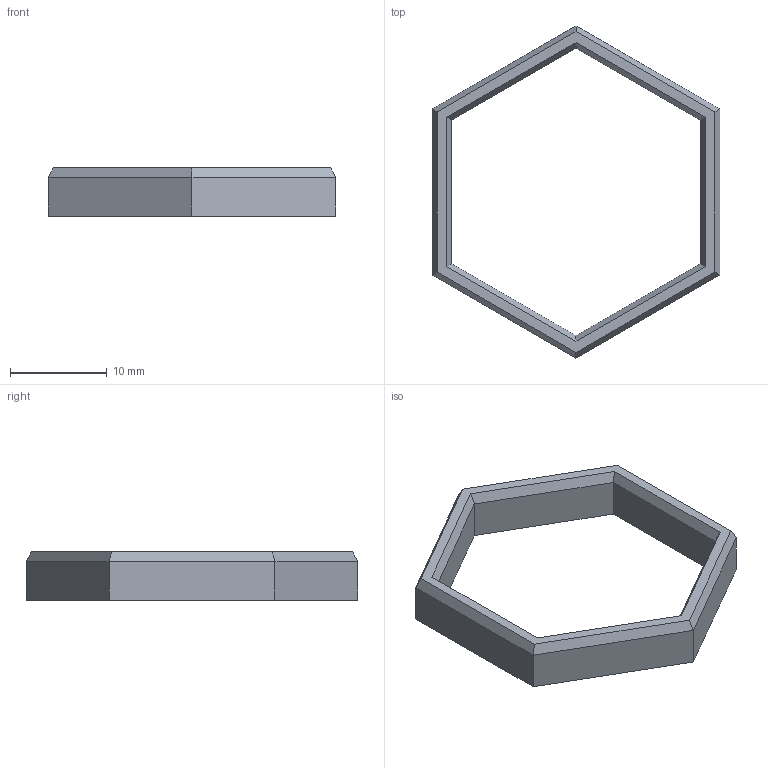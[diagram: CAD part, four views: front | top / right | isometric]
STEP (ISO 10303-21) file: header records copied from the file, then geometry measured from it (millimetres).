
FILE_DESCRIPTION(/* description */ ('','CAx-IF Rec.Pracs.---Representation and Presentation of Product Manufacturing Information (PMI)---4.0---2014-10-13'),/* implementation_level */ '2;1');
FILE_NAME(/* name */ 'Rahmen.step',/* time_stamp */ '2025-01-13T22:03:10+01:00',/* author */ (''),/* organization */ (''),/* preprocessor_version */ 'ST-DEVELOPER v20',/* originating_system */ 'Autodesk Translation Framework v13.20.0.188',/* authorisation */ '');
FILE_SCHEMA (('AP242_MANAGED_MODEL_BASED_3D_ENGINEERING_MIM_LF { 1 0 10303 442 1 1 4 }'));
Length unit declared in the file: millimetre
Products named in the file (1): 01_Rahmen
Bounding box: 29.75 x 34.35 x 5 mm (x, y, z)
Volume: 913.2 mm3; surface area: 1272.4 mm2
Topology: 1 solids, 1 shells, 26 faces, 60 edges, 36 vertices
Faces by surface type: plane 26
Entity records: 745 total; most frequent: CARTESIAN_POINT 123, ORIENTED_EDGE 120, DIRECTION 114, LINE 60, VECTOR 60, EDGE_CURVE 60, VERTEX_POINT 36, EDGE_LOOP 28
